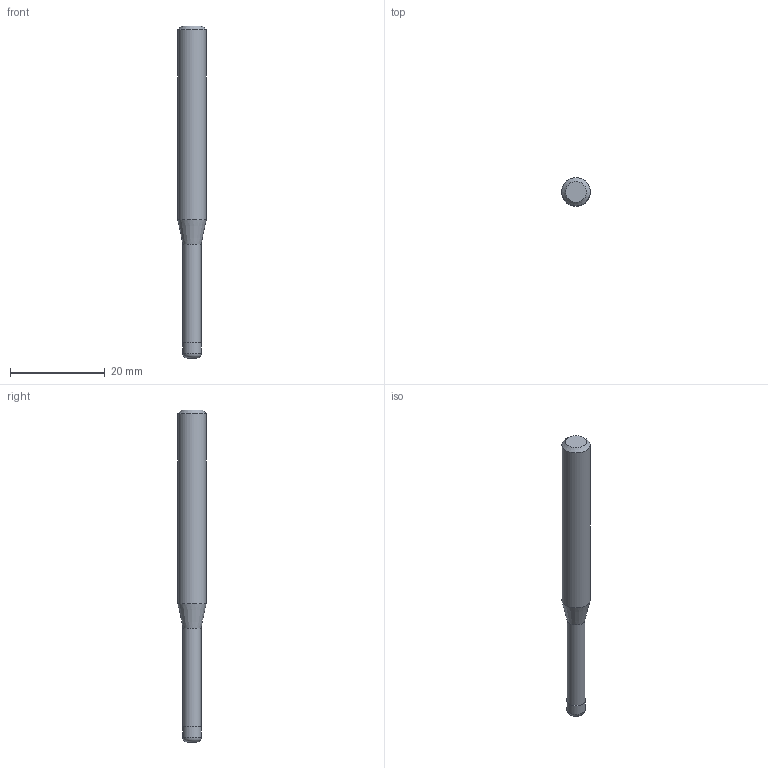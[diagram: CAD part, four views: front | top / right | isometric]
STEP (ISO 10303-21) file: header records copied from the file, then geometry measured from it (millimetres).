
FILE_DESCRIPTION((''),'2;1');
FILE_NAME('C:\Users\nsx150\AppData\Local\Temp\Mastercam 2021\3SYKECWX22\TEMP.step','2021-04-22T09:51:51',(''),(''),'STEP Write','Mastercam 2021 ... CNC Software, Inc.','');
FILE_SCHEMA(('AUTOMOTIVE_DESIGN'));
Length unit declared in the file: millimetre
Products named in the file (1): None
Bounding box: 6 x 6 x 70 mm (x, y, z)
Volume: 1521.7 mm3; surface area: 1188.7 mm2
Topology: 2 solids, 2 shells, 10 faces, 14 edges, 8 vertices
Faces by surface type: plane 4, cylinder 3, cone 2, torus 1
Full cylindrical faces by diameter (mm): 3.8 x1, 4 x1, 6 x1
Entity records: 232 total; most frequent: DIRECTION 40, CARTESIAN_POINT 28, AXIS2_PLACEMENT_3D 20, ORIENTED_EDGE 16, EDGE_LOOP 16, STYLED_ITEM 13, ADVANCED_FACE 10, FACE_BOUND 10
